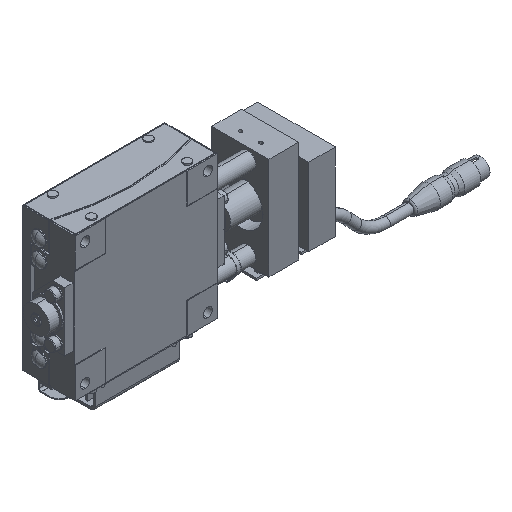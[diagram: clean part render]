
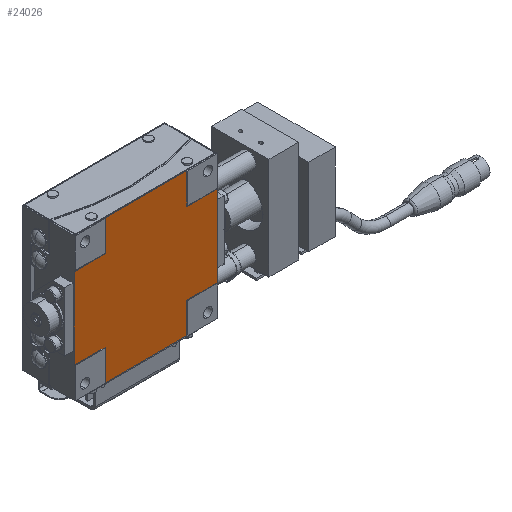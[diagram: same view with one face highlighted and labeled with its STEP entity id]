
A CAD part, isometric view. The second image highlights one B-rep face of the part: STEP entity #24026.
In plain terms, the highlighted planar face has unit normal (0, -1, 0).
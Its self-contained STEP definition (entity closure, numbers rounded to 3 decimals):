
#9 = DIRECTION ( 'NONE',  ( -1., 0., 0. ) ) ;
#86 = CARTESIAN_POINT ( 'NONE',  ( -20., 0.3, -20. ) ) ;
#214 = CARTESIAN_POINT ( 'NONE',  ( 35., 0.3, 20. ) ) ;
#308 = EDGE_CURVE ( 'NONE', #9471, #23418, #2683, .T. ) ;
#465 = EDGE_CURVE ( 'NONE', #32166, #38076, #18464, .T. ) ;
#719 = ORIENTED_EDGE ( 'NONE', *, *, #29830, .T. ) ;
#950 = VECTOR ( 'NONE', #38333, 1000. ) ;
#1269 = CARTESIAN_POINT ( 'NONE',  ( -20., 0.3, -35. ) ) ;
#1318 = VECTOR ( 'NONE', #12062, 1000. ) ;
#1928 = CARTESIAN_POINT ( 'NONE',  ( -20., 0.3, 35. ) ) ;
#2155 = EDGE_CURVE ( 'NONE', #38076, #15394, #19324, .T. ) ;
#2187 = EDGE_CURVE ( 'NONE', #17551, #19873, #11419, .T. ) ;
#2459 = LINE ( 'NONE', #1269, #31679 ) ;
#2670 = AXIS2_PLACEMENT_3D ( 'NONE', #24112, #15269, #9 ) ;
#2683 = LINE ( 'NONE', #26616, #1318 ) ;
#2976 = EDGE_CURVE ( 'NONE', #19873, #11729, #28949, .T. ) ;
#3480 = VECTOR ( 'NONE', #38331, 1000. ) ;
#4545 = EDGE_CURVE ( 'NONE', #15394, #17551, #33816, .T. ) ;
#5800 = CARTESIAN_POINT ( 'NONE',  ( 35., 0.3, 20. ) ) ;
#6114 = PLANE ( 'NONE',  #2670 ) ;
#6232 = VECTOR ( 'NONE', #27164, 1000. ) ;
#6320 = FACE_OUTER_BOUND ( 'NONE', #22543, .T. ) ;
#7749 = DIRECTION ( 'NONE',  ( 0., 0., -1. ) ) ;
#8070 = EDGE_CURVE ( 'NONE', #36599, #38161, #14562, .T. ) ;
#8501 = EDGE_CURVE ( 'NONE', #11224, #34508, #2459, .T. ) ;
#9471 = VERTEX_POINT ( 'NONE', #13048 ) ;
#10057 = ORIENTED_EDGE ( 'NONE', *, *, #4545, .T. ) ;
#10488 = VECTOR ( 'NONE', #13945, 1000. ) ;
#11224 = VERTEX_POINT ( 'NONE', #86 ) ;
#11339 = LINE ( 'NONE', #29133, #3480 ) ;
#11419 = LINE ( 'NONE', #31730, #10488 ) ;
#11729 = VERTEX_POINT ( 'NONE', #14431 ) ;
#11959 = DIRECTION ( 'NONE',  ( 0., 0., 1. ) ) ;
#12062 = DIRECTION ( 'NONE',  ( 0., 0., -1. ) ) ;
#12353 = DIRECTION ( 'NONE',  ( 1., 0., 0. ) ) ;
#12761 = LINE ( 'NONE', #30124, #36883 ) ;
#13048 = CARTESIAN_POINT ( 'NONE',  ( -35., 0.3, 20. ) ) ;
#13106 = CARTESIAN_POINT ( 'NONE',  ( -20., 0.3, -35. ) ) ;
#13945 = DIRECTION ( 'NONE',  ( -1., 0., 0. ) ) ;
#14266 = ORIENTED_EDGE ( 'NONE', *, *, #2155, .T. ) ;
#14361 = DIRECTION ( 'NONE',  ( 0., 0., -1. ) ) ;
#14431 = CARTESIAN_POINT ( 'NONE',  ( 20., 0.3, 35. ) ) ;
#14562 = LINE ( 'NONE', #17097, #25273 ) ;
#14928 = CARTESIAN_POINT ( 'NONE',  ( 35., 0.3, -20. ) ) ;
#15269 = DIRECTION ( 'NONE',  ( 0., 1., 0. ) ) ;
#15394 = VERTEX_POINT ( 'NONE', #14928 ) ;
#15701 = DIRECTION ( 'NONE',  ( 0., 0., 1. ) ) ;
#16055 = DIRECTION ( 'NONE',  ( 1., 0., 0. ) ) ;
#17097 = CARTESIAN_POINT ( 'NONE',  ( -20., 0.3, 20. ) ) ;
#17551 = VERTEX_POINT ( 'NONE', #214 ) ;
#18080 = EDGE_CURVE ( 'NONE', #11729, #36599, #19197, .T. ) ;
#18285 = ORIENTED_EDGE ( 'NONE', *, *, #18080, .T. ) ;
#18464 = LINE ( 'NONE', #31125, #31438 ) ;
#19197 = LINE ( 'NONE', #26472, #21985 ) ;
#19324 = LINE ( 'NONE', #22160, #24883 ) ;
#19508 = LINE ( 'NONE', #29403, #950 ) ;
#19873 = VERTEX_POINT ( 'NONE', #30260 ) ;
#21193 = CARTESIAN_POINT ( 'NONE',  ( 20., 0.3, 20. ) ) ;
#21985 = VECTOR ( 'NONE', #23873, 1000. ) ;
#22160 = CARTESIAN_POINT ( 'NONE',  ( 20., 0.3, -20. ) ) ;
#22307 = CARTESIAN_POINT ( 'NONE',  ( -20., 0.3, 20. ) ) ;
#22543 = EDGE_LOOP ( 'NONE', ( #14266, #10057, #34328, #27281, #18285, #28179, #719, #35841, #31908, #24913, #31843, #23581 ) ) ;
#23418 = VERTEX_POINT ( 'NONE', #27486 ) ;
#23581 = ORIENTED_EDGE ( 'NONE', *, *, #465, .T. ) ;
#23873 = DIRECTION ( 'NONE',  ( -1., 0., 0. ) ) ;
#24026 = ADVANCED_FACE ( 'NONE', ( #6320 ), #6114, .F. ) ;
#24112 = CARTESIAN_POINT ( 'NONE',  ( 0., 0.3, 0. ) ) ;
#24573 = EDGE_CURVE ( 'NONE', #34508, #32166, #12761, .T. ) ;
#24883 = VECTOR ( 'NONE', #16055, 1000. ) ;
#24913 = ORIENTED_EDGE ( 'NONE', *, *, #8501, .T. ) ;
#25039 = VECTOR ( 'NONE', #11959, 1000. ) ;
#25273 = VECTOR ( 'NONE', #14361, 1000. ) ;
#26472 = CARTESIAN_POINT ( 'NONE',  ( -20., 0.3, 35. ) ) ;
#26616 = CARTESIAN_POINT ( 'NONE',  ( -35., 0.3, 20. ) ) ;
#27164 = DIRECTION ( 'NONE',  ( 0., 0., 1. ) ) ;
#27281 = ORIENTED_EDGE ( 'NONE', *, *, #2976, .T. ) ;
#27486 = CARTESIAN_POINT ( 'NONE',  ( -35., 0.3, -20. ) ) ;
#28153 = CARTESIAN_POINT ( 'NONE',  ( 20., 0.3, -20. ) ) ;
#28179 = ORIENTED_EDGE ( 'NONE', *, *, #8070, .T. ) ;
#28949 = LINE ( 'NONE', #21193, #6232 ) ;
#29133 = CARTESIAN_POINT ( 'NONE',  ( -35., 0.3, 20. ) ) ;
#29403 = CARTESIAN_POINT ( 'NONE',  ( -35., 0.3, -20. ) ) ;
#29830 = EDGE_CURVE ( 'NONE', #38161, #9471, #11339, .T. ) ;
#30124 = CARTESIAN_POINT ( 'NONE',  ( -20., 0.3, -35. ) ) ;
#30260 = CARTESIAN_POINT ( 'NONE',  ( 20., 0.3, 20. ) ) ;
#30393 = CARTESIAN_POINT ( 'NONE',  ( 20., 0.3, -35. ) ) ;
#31125 = CARTESIAN_POINT ( 'NONE',  ( 20., 0.3, -35. ) ) ;
#31438 = VECTOR ( 'NONE', #15701, 1000. ) ;
#31679 = VECTOR ( 'NONE', #7749, 1000. ) ;
#31730 = CARTESIAN_POINT ( 'NONE',  ( 20., 0.3, 20. ) ) ;
#31843 = ORIENTED_EDGE ( 'NONE', *, *, #24573, .T. ) ;
#31908 = ORIENTED_EDGE ( 'NONE', *, *, #33004, .T. ) ;
#32166 = VERTEX_POINT ( 'NONE', #30393 ) ;
#33004 = EDGE_CURVE ( 'NONE', #23418, #11224, #19508, .T. ) ;
#33816 = LINE ( 'NONE', #5800, #25039 ) ;
#34328 = ORIENTED_EDGE ( 'NONE', *, *, #2187, .T. ) ;
#34508 = VERTEX_POINT ( 'NONE', #13106 ) ;
#35841 = ORIENTED_EDGE ( 'NONE', *, *, #308, .T. ) ;
#36599 = VERTEX_POINT ( 'NONE', #1928 ) ;
#36883 = VECTOR ( 'NONE', #12353, 1000. ) ;
#38076 = VERTEX_POINT ( 'NONE', #28153 ) ;
#38161 = VERTEX_POINT ( 'NONE', #22307 ) ;
#38331 = DIRECTION ( 'NONE',  ( -1., 0., 0. ) ) ;
#38333 = DIRECTION ( 'NONE',  ( 1., 0., 0. ) ) ;
